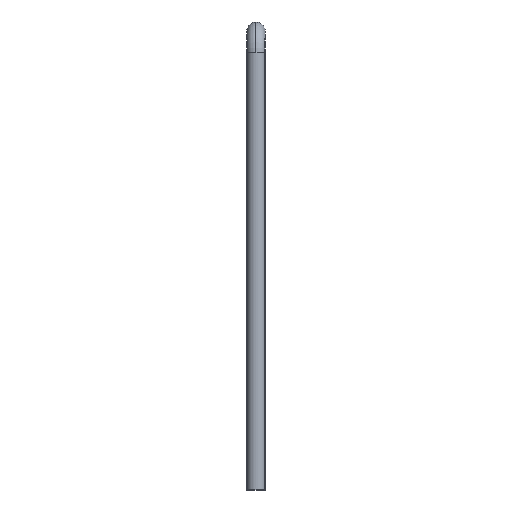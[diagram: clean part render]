
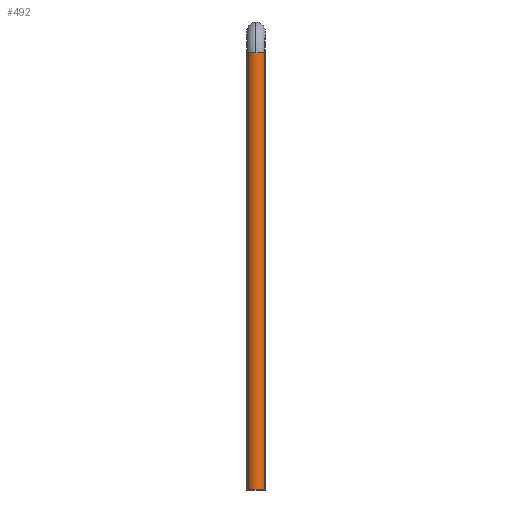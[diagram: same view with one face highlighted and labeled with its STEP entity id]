
A CAD part, left-side view. The second image highlights one B-rep face of the part: STEP entity #492.
In plain terms, the highlighted cylindrical face has radius 24.15 mm (diameter 48.3 mm), a partial arc.
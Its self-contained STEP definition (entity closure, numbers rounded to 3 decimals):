
#3 = CARTESIAN_POINT ( 'NONE',  ( 6067., -119.3, 2290. ) ) ;
#20 = ORIENTED_EDGE ( 'NONE', *, *, #1090, .F. ) ;
#30 = CIRCLE ( 'NONE', #247, 24.15 ) ;
#44 = CARTESIAN_POINT ( 'NONE',  ( 6067., -119.3, 3438.85 ) ) ;
#66 = VECTOR ( 'NONE', #1134, 1000. ) ;
#74 = EDGE_CURVE ( 'NONE', #1137, #315, #966, .T. ) ;
#85 = EDGE_CURVE ( 'NONE', #315, #380, #898, .T. ) ;
#92 = DIRECTION ( 'NONE',  ( -1., 0., 0. ) ) ;
#106 = DIRECTION ( 'NONE',  ( 0., 0., -1. ) ) ;
#112 = CARTESIAN_POINT ( 'NONE',  ( 6067., -71., 3438.85 ) ) ;
#133 = VERTEX_POINT ( 'NONE', #44 ) ;
#142 = CARTESIAN_POINT ( 'NONE',  ( 6067., -71., 3438.85 ) ) ;
#192 = CARTESIAN_POINT ( 'NONE',  ( 6067., -95.15, 3438.85 ) ) ;
#199 = DIRECTION ( 'NONE',  ( 0., 1., 0. ) ) ;
#204 = DIRECTION ( 'NONE',  ( 0., 0., -1. ) ) ;
#205 = CYLINDRICAL_SURFACE ( 'NONE', #745, 24.15 ) ;
#216 = CARTESIAN_POINT ( 'NONE',  ( 6067., -95.15, 3438.85 ) ) ;
#247 = AXIS2_PLACEMENT_3D ( 'NONE', #216, #451, #1020 ) ;
#251 = CARTESIAN_POINT ( 'NONE',  ( 6042.85, -95.15, 3438.85 ) ) ;
#259 = CARTESIAN_POINT ( 'NONE',  ( 6067., -71., 2290. ) ) ;
#279 = AXIS2_PLACEMENT_3D ( 'NONE', #192, #204, #92 ) ;
#284 = FACE_OUTER_BOUND ( 'NONE', #1072, .T. ) ;
#309 = AXIS2_PLACEMENT_3D ( 'NONE', #514, #837, #402 ) ;
#315 = VERTEX_POINT ( 'NONE', #142 ) ;
#380 = VERTEX_POINT ( 'NONE', #259 ) ;
#402 = DIRECTION ( 'NONE',  ( -1., 0., 0. ) ) ;
#451 = DIRECTION ( 'NONE',  ( 0., 0., -1. ) ) ;
#492 = ADVANCED_FACE ( 'NONE', ( #284 ), #205, .T. ) ;
#514 = CARTESIAN_POINT ( 'NONE',  ( 6067., -95.15, 2290. ) ) ;
#569 = VECTOR ( 'NONE', #711, 1000. ) ;
#618 = ORIENTED_EDGE ( 'NONE', *, *, #962, .T. ) ;
#711 = DIRECTION ( 'NONE',  ( 0., 0., -1. ) ) ;
#721 = ORIENTED_EDGE ( 'NONE', *, *, #736, .F. ) ;
#736 = EDGE_CURVE ( 'NONE', #1104, #380, #1126, .T. ) ;
#738 = ORIENTED_EDGE ( 'NONE', *, *, #74, .T. ) ;
#741 = CARTESIAN_POINT ( 'NONE',  ( 6067., -95.15, 3438.85 ) ) ;
#745 = AXIS2_PLACEMENT_3D ( 'NONE', #741, #106, #199 ) ;
#837 = DIRECTION ( 'NONE',  ( 0., 0., -1. ) ) ;
#878 = ORIENTED_EDGE ( 'NONE', *, *, #85, .T. ) ;
#898 = LINE ( 'NONE', #112, #569 ) ;
#944 = CARTESIAN_POINT ( 'NONE',  ( 6067., -119.3, 3438.85 ) ) ;
#962 = EDGE_CURVE ( 'NONE', #133, #1137, #30, .T. ) ;
#966 = CIRCLE ( 'NONE', #279, 24.15 ) ;
#971 = LINE ( 'NONE', #944, #66 ) ;
#1020 = DIRECTION ( 'NONE',  ( -1., 0., 0. ) ) ;
#1072 = EDGE_LOOP ( 'NONE', ( #20, #618, #738, #878, #721 ) ) ;
#1090 = EDGE_CURVE ( 'NONE', #133, #1104, #971, .T. ) ;
#1104 = VERTEX_POINT ( 'NONE', #3 ) ;
#1126 = CIRCLE ( 'NONE', #309, 24.15 ) ;
#1134 = DIRECTION ( 'NONE',  ( 0., 0., -1. ) ) ;
#1137 = VERTEX_POINT ( 'NONE', #251 ) ;
